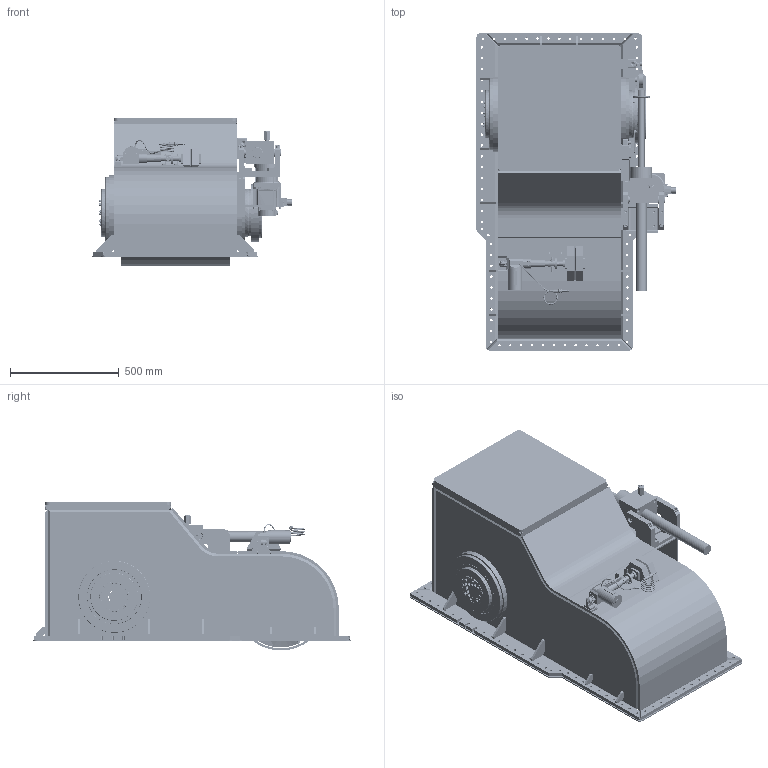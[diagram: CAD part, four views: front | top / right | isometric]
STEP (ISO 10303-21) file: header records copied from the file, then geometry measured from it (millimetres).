
FILE_DESCRIPTION(/* description */ (''),/* implementation_level */ '2;1');
FILE_NAME(/* name */ 'Q:\THRUSTERS\THRUSTER SALES & SUPPORT DOCS\THRUSTER Sales\E-S\E-0400-S\E-0400-S RETRACTED.stp',/* time_stamp */ '2021-01-28T13:12:55+00:00',/* author */ ('Barney.Webborn'),/* organization */ (''),/* preprocessor_version */ 'ST-DEVELOPER v17.2',/* originating_system */ 'Autodesk Inventor 2019',/* authorisation */ '');
FILE_SCHEMA (('AUTOMOTIVE_DESIGN { 1 0 10303 214 3 1 1 }'));
Length unit declared in the file: millimetre
Products named in the file (1): E-0400-S_Shrinkwrap_1
Bounding box: 913.99 x 1457 x 683.43 mm (x, y, z)
Volume: 93133024.8 mm3; surface area: 13314549.3 mm2
Topology: 16 solids, 650 shells, 4772 faces, 14278 edges, 10444 vertices
Faces by surface type: plane 2688, cylinder 1197, bspline 453, cone 236, torus 172, sphere 26
Full cylindrical faces by diameter (mm): 3 x6, 4 x8, 5 x1, 5.5 x8, 5.6 x4, 5.9 x12, 6 x12, 7 x8, 7.2 x2, 7.6 x8, 8 x21, 8.5 x8, 9.2 x8, 10 x10, 10.3 x28, 10.5 x12, 10.8 x6, 11 x182, 11.5 x8, 11.8 x3, 12 x3, 12.3 x1, 13 x9, 14.5 x7, 14.95 x2, 15.3 x1, 16 x18, 16.467 x1, 16.6 x1, 17 x24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
Entity records: 188554 total; most frequent: CARTESIAN_POINT 55398, DIRECTION 25742, ORIENTED_EDGE 25270, EDGE_CURVE 14209, VERTEX_POINT 10444, AXIS2_PLACEMENT_3D 8685, LINE 8372, VECTOR 8372
